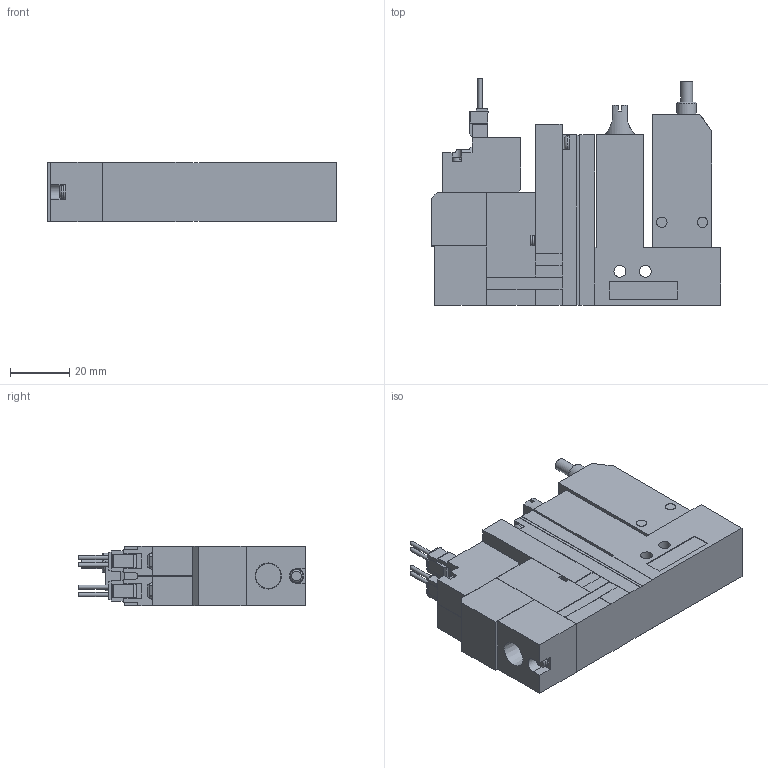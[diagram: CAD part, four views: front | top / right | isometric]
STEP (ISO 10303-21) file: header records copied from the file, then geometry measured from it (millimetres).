
FILE_DESCRIPTION(('STEP AP203'),'1');
FILE_NAME('ABS_ABPLC5BLR.stp','2025-02-17T00:10:40',(' '),(' '),'Spatial InterOp 3D',' ',' ');
FILE_SCHEMA(('CONFIG_CONTROL_DESIGN'));
Length unit declared in the file: millimetre
Products named in the file (5): BMC22S※※※※ABS_ABPLC5BLR; Solenoid valve B; Pressure sensor ABSLC; Unit LC; Base SR10R
Assembly tree (4 placements, depth 2):
  BMC22S※※※※ABS_ABPLC5BLR
    Solenoid valve B
    Pressure sensor ABSLC
    Unit LC
    Base SR10R
Bounding box: 97.6 x 76.45 x 20 mm (x, y, z)
Volume: 101294.5 mm3; surface area: 26185 mm2
Topology: 4 solids, 4 shells, 390 faces, 1036 edges, 681 vertices
Faces by surface type: plane 336, cylinder 42, torus 6, cone 6
Full cylindrical faces by diameter (mm): 1.4 x4, 2.5 x1, 3 x4, 3.5 x6, 3.6 x1, 4 x3, 4.134 x1, 6 x1, 6.5 x1
Entity records: 12093 total; most frequent: CARTESIAN_POINT 2213, ORIENTED_EDGE 1988, DIRECTION 1905, EDGE_CURVE 994, LINE 861, VECTOR 861, VERTEX_POINT 674, AXIS2_PLACEMENT_3D 522
